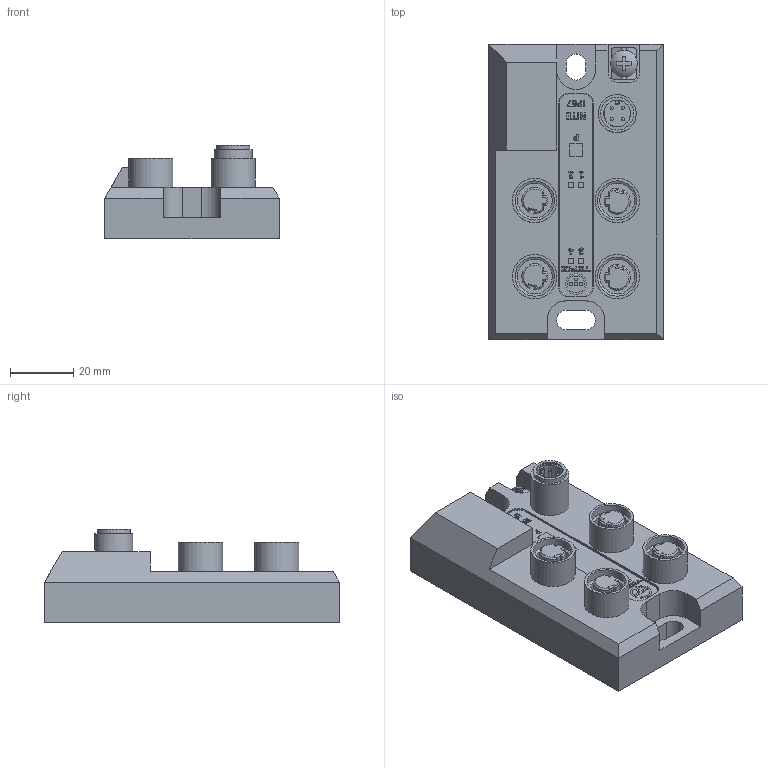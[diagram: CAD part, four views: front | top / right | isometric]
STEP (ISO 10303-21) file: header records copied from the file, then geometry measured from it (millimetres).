
FILE_DESCRIPTION((''),'2;1');
FILE_NAME('K:\01_NAS01\TZDATA01\03_Entwicklung\20_Tenado\01_Projects\TZTD002_NITE-XS\Kundenzeichnungen und Modelle\NITE-XS4\TZCA41130XA_NITE-XS4.stp','2018-05-31T14:24:20',('Autor'),('',''),'Top Systems','StepLib','');
FILE_SCHEMA(('CONFIG_CONTROL_DESIGN'));
Length unit declared in the file: metre
Products named in the file (1): None
Bounding box: 55 x 93 x 29.6 mm (x, y, z)
Volume: 84830.2 mm3; surface area: 21224.7 mm2
Topology: 1 solids, 1 shells, 868 faces, 2384 edges, 1566 vertices
Faces by surface type: bspline 531, plane 226, cylinder 79, cone 24, sphere 5, extrusion 3
Full cylindrical faces by diameter (mm): 1 x4, 4 x2, 4.3 x1, 8.4 x1, 8.5 x1, 9.6 x1, 10.4 x1, 11 x4, 12 x1, 12.2 x4, 12.35 x4, 14 x4
Entity records: 30563 total; most frequent: CARTESIAN_POINT 11964, ORIENTED_EDGE 4692, EDGE_CURVE 2346, DIRECTION 2120, VERTEX_POINT 1561, B_SPLINE_CURVE_WITH_KNOTS 1100, VECTOR 1052, LINE 1049
